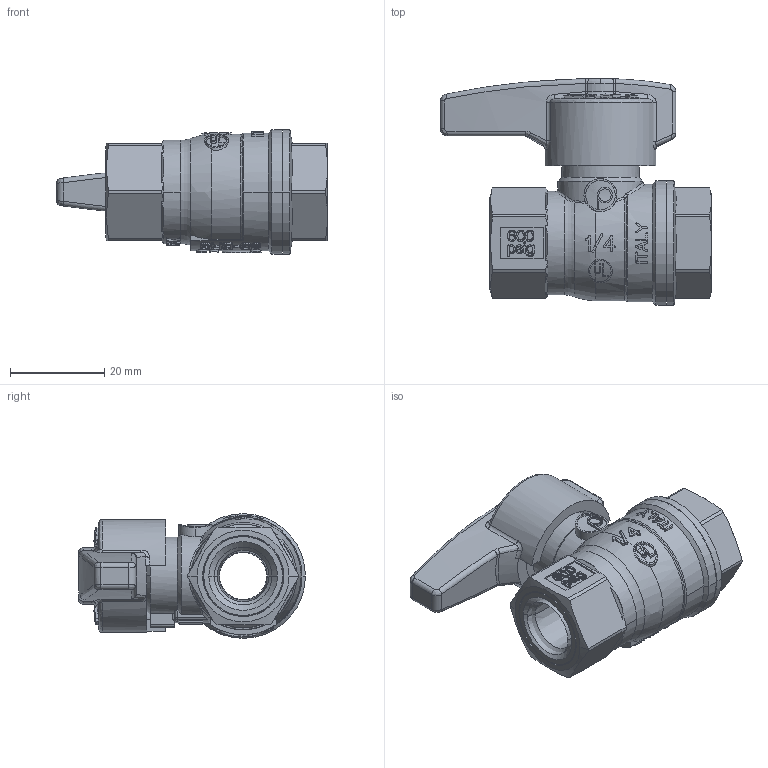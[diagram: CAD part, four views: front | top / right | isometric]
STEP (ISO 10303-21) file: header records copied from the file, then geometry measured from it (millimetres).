
FILE_DESCRIPTION((''),'2;1');
FILE_NAME('T204TD_1-4_ASM','2022-05-19T16:13:19',('Sergio.Dandrea'),(''),'CREO PARAMETRIC BY PTC INC, 2021164','CREO PARAMETRIC BY PTC INC, 2021164','');
FILE_SCHEMA(('CONFIG_CONTROL_DESIGN'));
Length unit declared in the file: millimetre
Products named in the file (11): 89078; SEDE_PTFE_F12; 87057; OR_107_AF0; OR_107_AF1; ASTA_T203FF_12_ASM; 88402; 89077; 90006; 87131; T204TD_1-4_ASM
Assembly tree (11 placements, depth 3):
  T204TD_1-4_ASM
    89078
    SEDE_PTFE_F12  x2
    ASTA_T203FF_12_ASM
      87057
      OR_107_AF0
      OR_107_AF1
    88402
    89077
    90006
    87131
Bounding box: 57.6 x 48.25 x 26.5 mm (x, y, z)
Volume: 23606.5 mm3; surface area: 19355.7 mm2
Topology: 10 solids, 16 shells, 1594 faces, 4277 edges, 2783 vertices
Faces by surface type: extrusion 594, plane 411, bspline 235, cylinder 180, cone 77, torus 55, sphere 26, revolution 16
Entity records: 61160 total; most frequent: CARTESIAN_POINT 25017, ORIENTED_EDGE 8466, DIRECTION 5351, EDGE_CURVE 4247, VERTEX_POINT 2767, B_SPLINE_CURVE_WITH_KNOTS 2477, VECTOR 2149, EDGE_LOOP 1678
